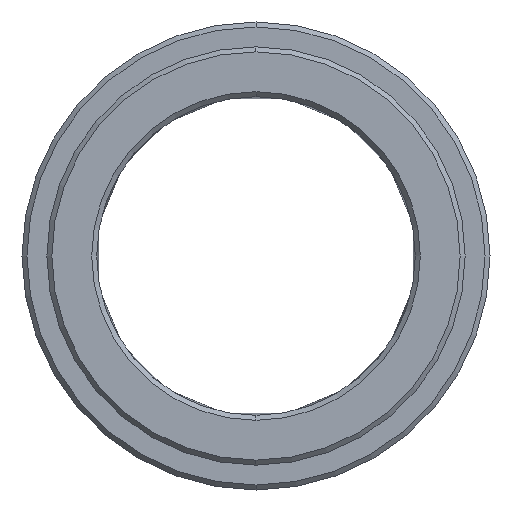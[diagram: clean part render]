
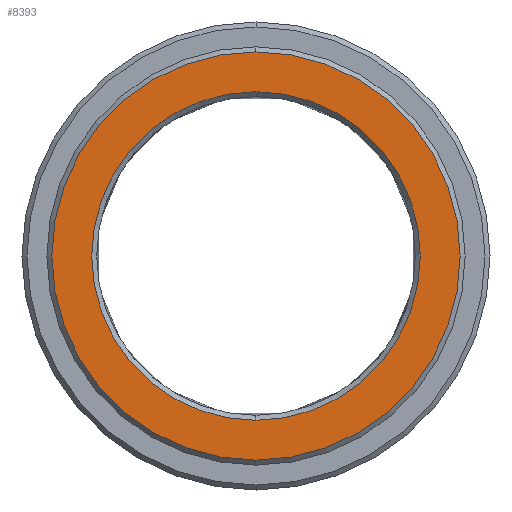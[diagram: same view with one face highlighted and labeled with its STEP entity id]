
A CAD part, left-side view. The second image highlights one B-rep face of the part: STEP entity #8393.
In plain terms, the highlighted planar face has unit normal (-1, 0, 0).
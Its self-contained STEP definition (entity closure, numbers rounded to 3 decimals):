
#5562=CARTESIAN_POINT('',(-8.,0.,
0.));
#5563=DIRECTION('',(1.,0.,0.));
#5564=DIRECTION('',(0.,0.,-1.));
#5565=AXIS2_PLACEMENT_3D('',#5562,#5563,#5564);
#5567=CARTESIAN_POINT('',(-8.,0.,0.));
#5568=DIRECTION('',(1.,0.,0.));
#5569=DIRECTION('',(0.,0.,1.));
#5570=AXIS2_PLACEMENT_3D('',#5567,#5568,#5569);
#5572=CARTESIAN_POINT('',(-8.,0.,0.));
#5573=DIRECTION('',(1.,0.,0.));
#5574=DIRECTION('',(0.,0.,-1.));
#5575=AXIS2_PLACEMENT_3D('',#5572,#5573,#5574);
#5577=CARTESIAN_POINT('',(-8.,0.,0.));
#5578=DIRECTION('',(1.,0.,0.));
#5579=DIRECTION('',(0.,0.,1.));
#5580=AXIS2_PLACEMENT_3D('',#5577,#5578,#5579);
#5944=CARTESIAN_POINT('',(-8.,0.,-16.5));
#5945=CARTESIAN_POINT('',(-8.,0.,16.5));
#5946=VERTEX_POINT('',#5944);
#5947=VERTEX_POINT('',#5945);
#5952=CARTESIAN_POINT('',(-8.,0.,-20.5));
#5953=CARTESIAN_POINT('',(-8.,0.,20.5));
#5954=VERTEX_POINT('',#5952);
#5955=VERTEX_POINT('',#5953);
#8378=CARTESIAN_POINT('',(-8.,0.,0.));
#8379=DIRECTION('',(1.,0.,0.));
#8380=DIRECTION('',(0.,0.,1.));
#8381=AXIS2_PLACEMENT_3D('',#8378,#8379,#8380);
#8382=PLANE('',#8381);
#8383=ORIENTED_EDGE('',*,*,#8360,.T.);
#8384=ORIENTED_EDGE('',*,*,#8345,.T.);
#8385=EDGE_LOOP('',(#8383,#8384));
#8386=FACE_OUTER_BOUND('',#8385,.F.);
#8388=ORIENTED_EDGE('',*,*,#8387,.F.);
#8390=ORIENTED_EDGE('',*,*,#8389,.F.);
#8391=EDGE_LOOP('',(#8388,#8390));
#8392=FACE_BOUND('',#8391,.F.);
#8393=ADVANCED_FACE('',(#8386,#8392),#8382,.F.);
#5566=CIRCLE('',#5565,20.5);
#5571=CIRCLE('',#5570,20.5);
#5576=CIRCLE('',#5575,16.5);
#5581=CIRCLE('',#5580,16.5);
#8345=EDGE_CURVE('',#5955,#5954,#5571,.T.);
#8360=EDGE_CURVE('',#5954,#5955,#5566,.T.);
#8387=EDGE_CURVE('',#5946,#5947,#5576,.T.);
#8389=EDGE_CURVE('',#5947,#5946,#5581,.T.);
